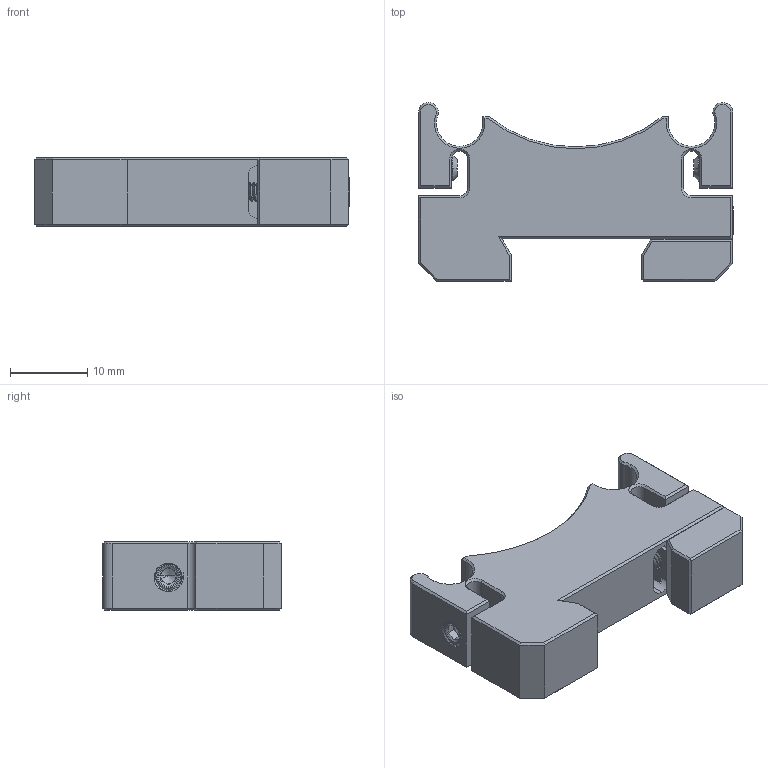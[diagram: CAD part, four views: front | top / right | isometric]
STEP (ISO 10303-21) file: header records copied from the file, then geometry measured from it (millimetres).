
FILE_DESCRIPTION((''),'2;1');
FILE_NAME('LRA30-B_ASM','2024-12-04T16:30:00',('R&D'),(''),'CREO PARAMETRIC BY PTC INC, 2021063','CREO PARAMETRIC BY PTC INC, 2021063','');
FILE_SCHEMA(('CONFIG_CONTROL_DESIGN'));
Products named in the file (9): LRA30-B-A3; LRA30-B-A4; LRA30-B-A5; LRA30-B-A6; LRA30-B-A7; LRA30-B-A8; LRA30-B-A2_ASM; LRA30-B-A1_ASM; LRA30-B_ASM
Assembly tree (8 placements, depth 4):
  LRA30-B_ASM
    LRA30-B-A1_ASM
      LRA30-B-A2_ASM
        LRA30-B-A3
        LRA30-B-A4
        LRA30-B-A5
        LRA30-B-A6
        LRA30-B-A7
        LRA30-B-A8
Bounding box: 40.74 x 23.16 x 8.89 mm (x, y, z)
Volume: 5498.8 mm3; surface area: 4234.6 mm2
Topology: 6 solids, 6 shells, 489 faces, 1303 edges, 818 vertices
Faces by surface type: cylinder 228, plane 145, cone 57, bspline 51, torus 4, extrusion 4
Entity records: 47010 total; most frequent: CARTESIAN_POINT 35870, ORIENTED_EDGE 2586, DIRECTION 1794, EDGE_CURVE 1293, VERTEX_POINT 818, VECTOR 608, LINE 604, AXIS2_PLACEMENT_3D 593
